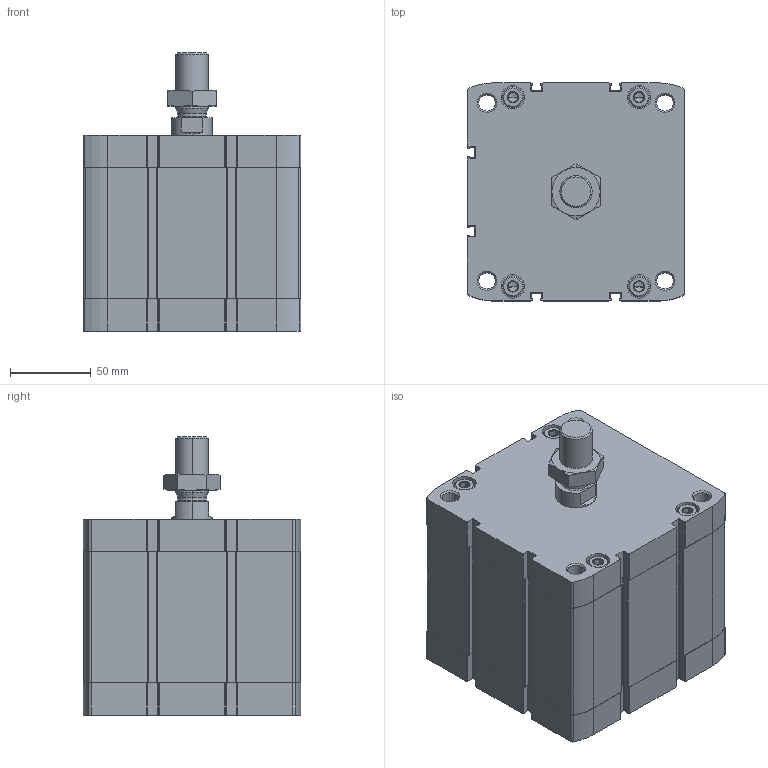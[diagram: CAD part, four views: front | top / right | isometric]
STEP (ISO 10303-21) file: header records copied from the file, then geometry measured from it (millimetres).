
FILE_DESCRIPTION (( 'STEP AP203' ), '1' );
FILE_NAME ('CCN125-40M.STEP', '2020-06-05T19:22:19', ( '' ), ( '' ), 'SwSTEP 2.0', 'SolidWorks 2019', '' );
FILE_SCHEMA (( 'CONFIG_CONTROL_DESIGN' ));
Length unit declared in the file: millimetre
Products named in the file (1): CCN125-40M
Bounding box: 134.6 x 134.6 x 172 mm (x, y, z)
Volume: 1644971.1 mm3; surface area: 232684 mm2
Topology: 3 solids, 3 shells, 555 faces, 1412 edges, 886 vertices
Faces by surface type: plane 275, cylinder 196, cone 80, torus 4
Entity records: 18163 total; most frequent: CARTESIAN_POINT 4452, DIRECTION 2966, ORIENTED_EDGE 2792, EDGE_CURVE 1396, AXIS2_PLACEMENT_3D 1092, VERTEX_POINT 886, VECTOR 782, LINE 782
